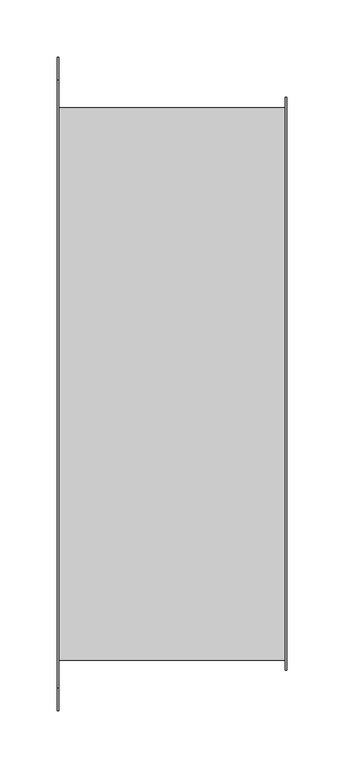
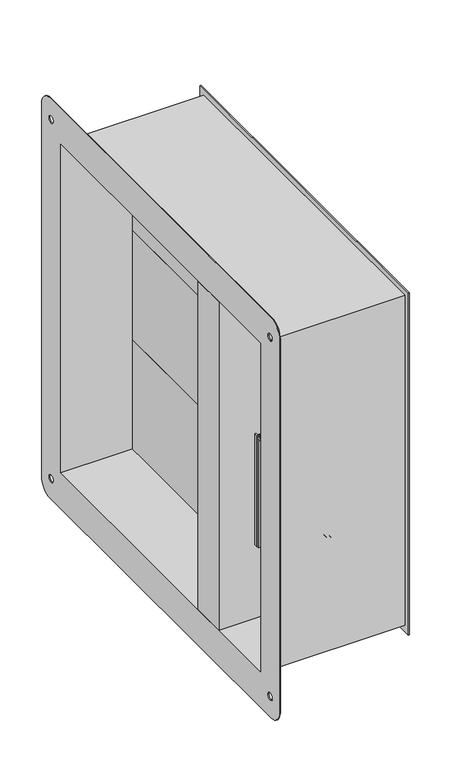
"""IFC4 building model written with IfcOpenShell, lengths in millimetres: damper geometry, СВ_КлапанПротивопожарныйЛифтовой_КДМ-2М-3-ЛС_НЗ_СтеновойПрямоугольный_СВОК : КДМ-2М_Привод ЭМ."""

from ifc_helpers import new_model, si_unit, frame, origin, place, context, project, spatial, polyline, circle_curve, outline, extrude, source, transform, mapped, element, save
from ifc_brep_helpers import plane_surface, cylinder_surface, revolved_surface, advanced_brep


def damper_259d30a5(model_context):
    return source(origin(), model_context, "Body", "SolidModel", [
        extrude(outline(polyline([(0.6, -90.0), (-0.6, -90.0), (-0.6, 240.0), (0.6, 240.0), (0.6, -90.0)])), frame((0.0, 0.0, 80.0), z_axis=(0.0, 0.0, 1.0), x_axis=(1.0, 0.0, 0.0)), (0.0, 0.0, 1.0), 160.0),
        extrude(outline(polyline([(0.6, -90.0), (-0.6, -90.0), (-0.6, 240.0), (0.6, 240.0), (0.6, -90.0)])), frame((0.0, 0.0, -80.0), z_axis=(0.0, 0.0, 1.0), x_axis=(1.0, 0.0, 0.0)), (0.0, 0.0, 1.0), 160.0),
        extrude(outline(polyline([(0.6, -90.0), (-0.6, -90.0), (-0.6, 240.0), (0.6, 240.0), (0.6, -90.0)])), frame((0.0, 0.0, -240.0), z_axis=(0.0, 0.0, 1.0), x_axis=(1.0, 0.0, 0.0)), (0.0, 0.0, 1.0), 160.0),
        extrude(outline(polyline([(48.8298911, -140.0), (50.0298911, -140.0), (50.0298911, -145.0), (-50.0, -145.0), (-50.0, -140.0), (-48.8, -140.0), (-48.8, -143.8), (48.8298911, -143.8), (48.8298911, -140.0)])), frame((0.0, 0.0, -132.5), z_axis=(0.0, 0.0, 1.0), x_axis=(1.0, 0.0, 0.0)), (0.0, 0.0, 1.0), 162.5),
        advanced_brep(
        [(0.0, -219.0, -115.8717586), (0.0, -219.0, -90.1282414), (0.0, -219.0, -103.0), (0.0, -211.122975, -115.8717586), (0.0, -211.122975, -90.1282414), (0.0, -211.122975, -112.0972194), (0.0, -211.122975, -93.9027806), (0.0, -197.0, -112.0972194), (0.0, -197.0, -93.9027806), (0.0, -197.0, -103.0)],
        [
            (0, 1, circle_curve(frame((0.0, -219.0, -103.0), z_axis=(0.0, -1.0, 0.0), x_axis=(0.0, 0.0, 1.0)), 12.8717586)),
            (1, 2),
            (2, 0),
            (1, 0, circle_curve(frame((0.0, -219.0, -103.0), z_axis=(0.0, -1.0, 0.0), x_axis=(0.0, 0.0, 1.0)), 12.8717586)),
            (3, 4, circle_curve(frame((0.0, -211.122975, -103.0), z_axis=(0.0, -1.0, 0.0), x_axis=(0.0, 0.0, 1.0)), 12.8717586)),
            (4, 1),
            (0, 3),
            (4, 3, circle_curve(frame((0.0, -211.122975, -103.0), z_axis=(0.0, -1.0, 0.0), x_axis=(0.0, 0.0, 1.0)), 12.8717586)),
            (5, 6, circle_curve(frame((0.0, -211.122975, -103.0), z_axis=(0.0, -1.0, 0.0), x_axis=(0.0, 0.0, 1.0)), 9.0972194)),
            (6, 4),
            (3, 5),
            (6, 5, circle_curve(frame((0.0, -211.122975, -103.0), z_axis=(0.0, -1.0, 0.0), x_axis=(0.0, 0.0, 1.0)), 9.0972194)),
            (7, 8, circle_curve(frame((0.0, -197.0, -103.0), z_axis=(0.0, -1.0, 0.0), x_axis=(0.0, 0.0, 1.0)), 9.0972194)),
            (8, 6),
            (5, 7),
            (8, 7, circle_curve(frame((0.0, -197.0, -103.0), z_axis=(0.0, -1.0, 0.0), x_axis=(0.0, 0.0, 1.0)), 9.0972194)),
            (9, 8),
            (7, 9),
        ],
        [
            plane_surface(frame((0.0, -219.0, -103.0), z_axis=(0.0, -1.0, 0.0), x_axis=(0.0, 0.0, 1.0))),
            cylinder_surface(frame((0.0, -197.0, -103.0), z_axis=(0.0, 1.0, 0.0), x_axis=(0.0, 0.0, 1.0)), 12.8717586),
            plane_surface(frame((0.0, -211.122975, -103.0), z_axis=(0.0, 1.0, 0.0), x_axis=(0.0, 0.0, 1.0))),
            cylinder_surface(frame((0.0, -197.0, -103.0), z_axis=(0.0, 1.0, 0.0), x_axis=(0.0, 0.0, 1.0)), 9.0972194),
            plane_surface(frame((0.0, -197.0, -103.0), z_axis=(0.0, 1.0, 0.0), x_axis=(0.0, 0.0, 1.0))),
        ],
        [
            (0, [[1, 2, 3]]),
            (0, [[4, -3, -2]]),
            (1, [[5, 6, -1, 7]]),
            (1, [[8, -7, -4, -6]]),
            (2, [[9, 10, -5, 11]]),
            (2, [[12, -11, -8, -10]]),
            (3, [[13, 14, -9, 15]]),
            (3, [[16, -15, -12, -14]]),
            (4, [[17, -13, 18]]),
            (4, [[-18, -16, -17]]),
        ],
    ),
        advanced_brep(
        [(30.37371, -190.4632523, -120.900028), (-29.62629, -190.4632523, -120.900028), (-29.62629, -151.0, -120.900028), (-43.1888336, -151.0, -120.900028), (-43.1888336, -148.0, -120.900028), (-26.62629, -148.0, -120.900028), (-26.62629, -187.4632523, -120.900028), (0.37371, -187.4632523, -120.900028), (27.37371, -187.4632523, -120.900028), (27.37371, -148.0, -120.900028), (43.9362537, -148.0, -120.900028), (43.9362537, -151.0, -120.900028), (30.37371, -151.0, -120.900028), (30.37371, -190.4632523, -85.2906263), (30.37371, -151.0, -85.2906263), (43.9362537, -151.0, -85.2906263), (43.9362537, -148.0, -85.2906263), (27.37371, -148.0, -85.2906263), (27.37371, -187.4632523, -85.2906263), (0.37371, -187.4632523, -85.2906263), (-26.62629, -187.4632523, -85.2906263), (-26.62629, -148.0, -85.2906263), (-43.1888336, -148.0, -85.2906263), (-43.1888336, -151.0, -85.2906263), (-29.62629, -151.0, -85.2906263), (-29.62629, -190.4632523, -85.2906263), (-12.4468236, -190.4632523, -85.2906263), (0.37371, -190.4632523, -85.2906263), (12.4468236, -190.4632523, -85.2906263), (0.37371, -187.4632523, -87.0153496), (0.0, -187.4632523, -87.0109817), (0.0, -187.4632523, -118.9890183), (0.37371, -187.4632523, -118.9846504), (12.4468236, -197.0, -103.0), (12.4468236, -197.0, -15.654922), (-8.3218794, -197.0, 18.1864324), (-46.7904973, -197.0, 0.5836838), (-46.7904973, -197.0, -7.3717785), (-30.2857987, -197.0, -7.3717785), (-7.6533426, -197.0, -30.2158745), (-7.6533426, -197.0, -53.0), (-12.4468236, -197.0, -53.0), (-12.4468236, -197.0, -103.0), (8.4852814, -197.0, 0.0), (5.9954463, -197.0, -2.4898351), (5.9954463, -197.0, -5.9954463), (2.4898351, -197.0, -5.9954463), (0.0, -197.0, -8.4852814), (-2.4898351, -197.0, -5.9954463), (-5.9954463, -197.0, -5.9954463), (-5.9954463, -197.0, -2.4898351), (-8.4852814, -197.0, 0.0), (-5.9954463, -197.0, 2.4898351), (-5.9954463, -197.0, 5.9954463), (-2.4898351, -197.0, 5.9954463), (0.0, -197.0, 8.4852814), (2.4898351, -197.0, 5.9954463), (5.9954463, -197.0, 5.9954463), (5.9954463, -197.0, 2.4898351), (-12.4468236, -190.4632523, -53.0), (-7.6533426, -190.4632523, -53.0), (-7.6533426, -190.4632523, -30.2158745), (-23.3544986, -190.4632523, -20.6431616), (12.4468236, -190.4632523, -20.6431616), (-12.4468236, -190.4632523, -103.0), (12.4468236, -190.4632523, -103.0), (12.4468236, -190.4632523, -15.654922), (-8.3218794, -190.4632523, 18.1864324), (-46.7904973, -190.4632523, 0.5836838), (-46.7904973, -190.4632523, -7.3717785), (-30.2857987, -190.4632523, -7.3717785), (0.0, -185.0, 15.9890183), (0.0, -185.0, -15.9890183), (5.9954463, -185.0, -2.4898351), (8.4852814, -185.0, 0.0), (5.9954463, -185.0, 2.4898351), (5.9954463, -185.0, 5.9954463), (2.4898351, -185.0, 5.9954463), (0.0, -185.0, 8.4852814), (-2.4898351, -185.0, 5.9954463), (-5.9954463, -185.0, 5.9954463), (-5.9954463, -185.0, 2.4898351), (-8.4852814, -185.0, 0.0), (-5.9954463, -185.0, -2.4898351), (-5.9954463, -185.0, -5.9954463), (-2.4898351, -185.0, -5.9954463), (0.0, -185.0, -8.4852814), (2.4898351, -185.0, -5.9954463), (5.9954463, -185.0, -5.9954463), (0.0, -185.0, -87.0109817), (0.0, -185.0, -118.9890183), (0.0, -187.4632523, -15.9890183), (0.0, -187.4632523, 15.9890183), (-50.0, -145.0, 25.5), (-50.0, -145.0, -132.5), (-50.0, -148.0, -132.5), (-50.0, -148.0, 25.5), (-50.0, -149.5, 27.0), (-50.0, -185.9337407, 27.0), (-50.0, -187.4632523, 25.4704884), (-50.0, -187.4632523, -20.6431616), (-50.0, -190.4632523, -20.6431616), (-50.0, -190.4632523, 25.4704884), (-50.0, -185.9337407, 30.0), (-50.0, -149.5, 30.0), (50.0, -145.0, 25.5), (50.0, -149.5, 30.0), (50.0, -185.9337407, 30.0), (50.0, -190.4632523, 25.4704884), (50.0, -190.4632523, -20.6431616), (50.0, -187.4632523, -20.6431616), (50.0, -187.4632523, 25.4704884), (50.0, -185.9337407, 27.0), (50.0, -149.5, 27.0), (50.0, -148.0, 25.5), (50.0, -148.0, -132.5), (50.0, -145.0, -132.5), (5.9954463, -145.0, -2.4898351), (8.4852814, -145.0, 0.0), (5.9954463, -145.0, 2.4898351), (5.9954463, -145.0, 5.9954463), (2.4898351, -145.0, 5.9954463), (0.0, -145.0, 8.4852814), (-2.4898351, -145.0, 5.9954463), (-5.9954463, -145.0, 5.9954463), (-5.9954463, -145.0, 2.4898351), (-8.4852814, -145.0, 0.0), (-5.9954463, -145.0, -2.4898351), (-5.9954463, -145.0, -5.9954463), (-2.4898351, -145.0, -5.9954463), (0.0, -145.0, -8.4852814), (2.4898351, -145.0, -5.9954463), (5.9954463, -145.0, -5.9954463), (8.4852814, -148.0, 0.0), (5.9954463, -148.0, -2.4898351), (5.9954463, -148.0, -5.9954463), (2.4898351, -148.0, -5.9954463), (0.0, -148.0, -8.4852814), (-2.4898351, -148.0, -5.9954463), (-5.9954463, -148.0, -5.9954463), (-5.9954463, -148.0, -2.4898351), (-8.4852814, -148.0, 0.0), (-5.9954463, -148.0, 2.4898351), (-5.9954463, -148.0, 5.9954463), (-2.4898351, -148.0, 5.9954463), (0.0, -148.0, 8.4852814), (2.4898351, -148.0, 5.9954463), (5.9954463, -148.0, 5.9954463), (5.9954463, -148.0, 2.4898351)],
        [
            (0, 1),
            (1, 2),
            (2, 3),
            (3, 4),
            (4, 5),
            (5, 6),
            (6, 7),
            (7, 8),
            (8, 9),
            (9, 10),
            (10, 11),
            (11, 12),
            (12, 0),
            (13, 14),
            (14, 15),
            (15, 16),
            (16, 17),
            (17, 18),
            (18, 19),
            (19, 20),
            (20, 21),
            (21, 22),
            (22, 23),
            (23, 24),
            (24, 25),
            (25, 26),
            (26, 27),
            (27, 28),
            (28, 13),
            (1, 25),
            (24, 2),
            (23, 3),
            (22, 4),
            (5, 21),
            (20, 6),
            (19, 29),
            (29, 30, circle_curve(frame((0.0, -187.4632523, -103.0), z_axis=(0.0, -1.0, 0.0), x_axis=(0.0, 0.0, -1.0)), 15.9890183)),
            (30, 31, circle_curve(frame((0.0, -187.4632523, -103.0), z_axis=(0.0, -1.0, 0.0), x_axis=(0.0, 0.0, -1.0)), 15.9890183)),
            (31, 32, circle_curve(frame((0.0, -187.4632523, -103.0), z_axis=(0.0, -1.0, 0.0), x_axis=(0.0, 0.0, -1.0)), 15.9890183)),
            (32, 7),
            (32, 29, circle_curve(frame((0.0, -187.4632523, -103.0), z_axis=(0.0, -1.0, 0.0), x_axis=(0.0, 0.0, -1.0)), 15.9890183)),
            (18, 8),
            (17, 9),
            (10, 16),
            (15, 11),
            (14, 12),
            (13, 0),
            (33, 34),
            (34, 35, circle_curve(frame((0.0, -197.0, 0.0), z_axis=(0.0, -1.0, 0.0), x_axis=(0.0, 0.0, -1.0)), 20.0)),
            (35, 36),
            (36, 37),
            (37, 38),
            (38, 39, circle_curve(frame((0.0, -197.0, 0.0), z_axis=(0.0, -1.0, 0.0), x_axis=(0.0, 0.0, -1.0)), 31.1700613)),
            (39, 40),
            (40, 41),
            (41, 42),
            (42, 33, circle_curve(frame((0.0, -197.0, -103.0), z_axis=(0.0, -1.0, 0.0), x_axis=(0.0, 0.0, -1.0)), 12.4468236)),
            (43, 44),
            (44, 45),
            (45, 46),
            (46, 47),
            (47, 48),
            (48, 49),
            (49, 50),
            (50, 51),
            (51, 52),
            (52, 53),
            (53, 54),
            (54, 55),
            (55, 56),
            (56, 57),
            (57, 58),
            (58, 43),
            (59, 60),
            (60, 61),
            (61, 62, circle_curve(frame((0.0, -190.4632523, 0.0), z_axis=(0.0, 1.0, 0.0), x_axis=(0.0, 0.0, -1.0)), 31.1700613)),
            (62, 63),
            (63, 28),
            (26, 59),
            (42, 64),
            (64, 65, circle_curve(frame((0.0, -190.4632523, -103.0), z_axis=(0.0, -1.0, 0.0), x_axis=(0.0, 0.0, -1.0)), 12.4468236)),
            (65, 33),
            (34, 66),
            (66, 67, circle_curve(frame((0.0, -190.4632523, 0.0), z_axis=(0.0, -1.0, 0.0), x_axis=(0.0, 0.0, -1.0)), 20.0)),
            (67, 35),
            (65, 28),
            (63, 66),
            (36, 68),
            (68, 69),
            (69, 37),
            (69, 70),
            (70, 38),
            (70, 62, circle_curve(frame((0.0, -190.4632523, 0.0), z_axis=(0.0, -1.0, 0.0), x_axis=(0.0, 0.0, -1.0)), 31.1700613)),
            (61, 39),
            (60, 40),
            (59, 41),
            (26, 64),
            (71, 72, circle_curve(frame((0.0, -185.0, 0.0), z_axis=(0.0, 1.0, 0.0), x_axis=(0.0, 0.0, -1.0)), 15.9890183)),
            (72, 71, circle_curve(frame((0.0, -185.0, 0.0), z_axis=(0.0, 1.0, 0.0), x_axis=(0.0, 0.0, -1.0)), 15.9890183)),
            (73, 74),
            (74, 75),
            (75, 76),
            (76, 77),
            (77, 78),
            (78, 79),
            (79, 80),
            (80, 81),
            (81, 82),
            (82, 83),
            (83, 84),
            (84, 85),
            (85, 86),
            (86, 87),
            (87, 88),
            (88, 73),
            (89, 90, circle_curve(frame((0.0, -185.0, -103.0), z_axis=(0.0, 1.0, 0.0), x_axis=(0.0, 0.0, -1.0)), 15.9890183)),
            (90, 89, circle_curve(frame((0.0, -185.0, -103.0), z_axis=(0.0, 1.0, 0.0), x_axis=(0.0, 0.0, -1.0)), 15.9890183)),
            (72, 91),
            (91, 92, circle_curve(frame((0.0, -187.4632523, 0.0), z_axis=(0.0, 1.0, 0.0), x_axis=(0.0, 0.0, -1.0)), 15.9890183)),
            (92, 71),
            (92, 91, circle_curve(frame((0.0, -187.4632523, 0.0), z_axis=(0.0, 1.0, 0.0), x_axis=(0.0, 0.0, -1.0)), 15.9890183)),
            (90, 31),
            (30, 89),
            (93, 94),
            (94, 95),
            (95, 96),
            (96, 97, circle_curve(frame((-50.0, -149.5, 25.5), z_axis=(1.0, 0.0, 0.0), x_axis=(0.0, 0.0, -1.0)), 1.5)),
            (97, 98),
            (98, 99, circle_curve(frame((-50.0, -185.9337407, 25.4704884), z_axis=(1.0, 0.0, 0.0), x_axis=(0.0, 0.0, -1.0)), 1.5295116)),
            (99, 100),
            (100, 101),
            (101, 102),
            (102, 103, circle_curve(frame((-50.0, -185.9337407, 25.4704884), z_axis=(-1.0, 0.0, 0.0), x_axis=(0.0, 0.0, -1.0)), 4.5295116)),
            (103, 104),
            (104, 93, circle_curve(frame((-50.0, -149.5, 25.5), z_axis=(-1.0, 0.0, 0.0), x_axis=(0.0, 0.0, -1.0)), 4.5)),
            (105, 106, circle_curve(frame((50.0, -149.5, 25.5), z_axis=(1.0, 0.0, 0.0), x_axis=(0.0, 0.0, -1.0)), 4.5)),
            (106, 107),
            (107, 108, circle_curve(frame((50.0, -185.9337407, 25.4704884), z_axis=(1.0, 0.0, 0.0), x_axis=(0.0, 0.0, -1.0)), 4.5295116)),
            (108, 109),
            (109, 110),
            (110, 111),
            (111, 112, circle_curve(frame((50.0, -185.9337407, 25.4704884), z_axis=(-1.0, 0.0, 0.0), x_axis=(0.0, 0.0, -1.0)), 1.5295116)),
            (112, 113),
            (113, 114, circle_curve(frame((50.0, -149.5, 25.5), z_axis=(-1.0, 0.0, 0.0), x_axis=(0.0, 0.0, -1.0)), 1.5)),
            (114, 115),
            (115, 116),
            (116, 105),
            (93, 105),
            (116, 94),
            (117, 118),
            (118, 119),
            (119, 120),
            (120, 121),
            (121, 122),
            (122, 123),
            (123, 124),
            (124, 125),
            (125, 126),
            (126, 127),
            (127, 128),
            (128, 129),
            (129, 130),
            (130, 131),
            (131, 132),
            (132, 117),
            (115, 95),
            (114, 96),
            (133, 134),
            (134, 135),
            (135, 136),
            (136, 137),
            (137, 138),
            (138, 139),
            (139, 140),
            (140, 141),
            (141, 142),
            (142, 143),
            (143, 144),
            (144, 145),
            (145, 146),
            (146, 147),
            (147, 148),
            (148, 133),
            (113, 97),
            (112, 98),
            (111, 99),
            (110, 100),
            (109, 63),
            (62, 101),
            (68, 67),
            (108, 102),
            (107, 103),
            (106, 104),
            (73, 44),
            (43, 74),
            (117, 134),
            (133, 118),
            (58, 75),
            (148, 119),
            (57, 76),
            (147, 120),
            (56, 77),
            (146, 121),
            (55, 78),
            (145, 122),
            (54, 79),
            (144, 123),
            (53, 80),
            (143, 124),
            (52, 81),
            (142, 125),
            (51, 82),
            (141, 126),
            (50, 83),
            (140, 127),
            (49, 84),
            (139, 128),
            (48, 85),
            (138, 129),
            (47, 86),
            (137, 130),
            (46, 87),
            (136, 131),
            (45, 88),
            (135, 132),
        ],
        [
            plane_surface(frame((30.37371, -190.4632523, -120.900028), z_axis=(0.0, 0.0, -1.0), x_axis=(-1.0, 0.0, 0.0))),
            plane_surface(frame((30.37371, -190.4632523, -85.2906263), z_axis=(0.0, 0.0, 1.0), x_axis=(1.0, 0.0, 0.0))),
            plane_surface(frame((-29.62629, -190.4632523, -120.900028), z_axis=(-1.0, 0.0, 0.0), x_axis=(0.0, 0.0, 1.0))),
            plane_surface(frame((-29.62629, -151.0, -120.900028), z_axis=(0.0, -1.0, 0.0), x_axis=(0.0, 0.0, 1.0))),
            plane_surface(frame((-43.1888336, -151.0, -120.900028), z_axis=(-1.0, 0.0, 0.0), x_axis=(0.0, 0.0, 1.0))),
            plane_surface(frame((-26.62629, -148.0, -120.900028), z_axis=(1.0, 0.0, 0.0), x_axis=(0.0, 0.0, 1.0))),
            plane_surface(frame((-26.62629, -187.4632523, -120.900028), z_axis=(0.0, 1.0, 0.0), x_axis=(0.0, 0.0, 1.0))),
            plane_surface(frame((0.37371, -187.4632523, -120.900028), z_axis=(0.0, 1.0, 0.0), x_axis=(0.0, 0.0, 1.0))),
            plane_surface(frame((27.37371, -187.4632523, -120.900028), z_axis=(-1.0, 0.0, 0.0), x_axis=(0.0, 0.0, 1.0))),
            plane_surface(frame((43.9362537, -148.0, -120.900028), z_axis=(1.0, 0.0, 0.0), x_axis=(0.0, 0.0, 1.0))),
            plane_surface(frame((43.9362537, -151.0, -120.900028), z_axis=(0.0, -1.0, 0.0), x_axis=(0.0, 0.0, 1.0))),
            plane_surface(frame((30.37371, -151.0, -120.900028), z_axis=(1.0, 0.0, 0.0), x_axis=(0.0, 0.0, 1.0))),
            plane_surface(frame((12.4468236, -197.0, -103.0), z_axis=(0.0, -1.0, 0.0), x_axis=(0.0, 0.0, 1.0))),
            plane_surface(frame((12.4468236, -190.4632523, -103.0), z_axis=(0.0, 1.0, 0.0), x_axis=(0.0, 0.0, -1.0))),
            cylinder_surface(frame((0.0, -190.4632523, -103.0), z_axis=(0.0, -1.0, 0.0), x_axis=(0.0, 0.0, -1.0)), 12.4468236),
            cylinder_surface(frame((0.0, -190.4632523, 0.0), z_axis=(0.0, -1.0, 0.0), x_axis=(0.0, 0.0, -1.0)), 20.0),
            plane_surface(frame((12.4468236, -197.0, -103.0), z_axis=(1.0, 0.0, 0.0), x_axis=(0.0, 1.0, 0.0))),
            plane_surface(frame((-46.7904973, -197.0, 0.5836838), z_axis=(-1.0, 0.0, 0.0), x_axis=(0.0, 1.0, 0.0))),
            plane_surface(frame((-46.7904973, -197.0, -7.3717785), z_axis=(0.0, 0.0, -1.0), x_axis=(0.0, 1.0, 0.0))),
            cylinder_surface(frame((0.0, -190.4632523, 0.0), z_axis=(0.0, -1.0, 0.0), x_axis=(0.0, 0.0, -1.0)), 31.1700613),
            plane_surface(frame((-7.6533426, -197.0, -30.2158745), z_axis=(-1.0, 0.0, 0.0), x_axis=(0.0, 1.0, 0.0))),
            plane_surface(frame((-7.6533426, -197.0, -53.0), z_axis=(0.0, 0.0, 1.0), x_axis=(0.0, 1.0, 0.0))),
            plane_surface(frame((-12.4468236, -197.0, -53.0), z_axis=(-1.0, 0.0, 0.0), x_axis=(0.0, 1.0, 0.0))),
            plane_surface(frame((0.0, -190.4632523, -15.9890183), z_axis=(0.0, -1.0, 0.0), x_axis=(1.0, 0.0, 0.0))),
            plane_surface(frame((0.0, -185.0, -15.9890183), z_axis=(0.0, 1.0, 0.0), x_axis=(-1.0, 0.0, 0.0))),
            cylinder_surface(frame((0.0, -185.0, 0.0), z_axis=(0.0, -1.0, 0.0), x_axis=(0.0, 0.0, -1.0)), 15.9890183),
            cylinder_surface(frame((0.0, -140.0, -103.0), z_axis=(0.0, -1.0, 0.0), x_axis=(0.0, 0.0, -1.0)), 15.9890183),
            plane_surface(frame((-50.0, -145.0, -132.5), z_axis=(-1.0, 0.0, 0.0), x_axis=(0.0, 0.0, -1.0))),
            plane_surface(frame((50.0, -145.0, -132.5), z_axis=(1.0, 0.0, 0.0), x_axis=(0.0, 0.0, 1.0))),
            plane_surface(frame((-50.0, -145.0, 25.5), z_axis=(0.0, 1.0, 0.0), x_axis=(1.0, 0.0, 0.0))),
            plane_surface(frame((-50.0, -145.0, -132.5), z_axis=(0.0, 0.0, -1.0), x_axis=(1.0, 0.0, 0.0))),
            plane_surface(frame((-50.0, -148.0, -132.5), z_axis=(0.0, -1.0, 0.0), x_axis=(1.0, 0.0, 0.0))),
            revolved_surface(polyline([(50.0, -149.5, 24.0), (-50.0, -149.5, 24.0)]), (50.0, -149.5, 25.5), (1.0, 0.0, 0.0)),
            plane_surface(frame((-50.0, -149.5, 27.0), z_axis=(0.0, 0.0, -1.0), x_axis=(1.0, 0.0, 0.0))),
            revolved_surface(polyline([(50.0, -185.9337407, 23.9409768), (-50.0, -185.9337407, 23.9409768)]), (50.0, -185.9337407, 25.4704884), (1.0, 0.0, 0.0)),
            plane_surface(frame((-50.0, -187.4632523, 25.4704884), z_axis=(0.0, 1.0, 0.0), x_axis=(1.0, 0.0, 0.0))),
            plane_surface(frame((-50.0, -187.4632523, -20.6431616), z_axis=(0.0, 0.0, -1.0), x_axis=(1.0, 0.0, 0.0))),
            plane_surface(frame((-50.0, -190.4632523, -20.6431616), z_axis=(0.0, -1.0, 0.0), x_axis=(1.0, 0.0, 0.0))),
            cylinder_surface(frame((50.0, -185.9337407, 25.4704884), z_axis=(-1.0, 0.0, 0.0), x_axis=(0.0, 0.0, -1.0)), 4.5295116),
            plane_surface(frame((-50.0, -185.9337407, 30.0), z_axis=(0.0, 0.0, 1.0), x_axis=(1.0, 0.0, 0.0))),
            cylinder_surface(frame((50.0, -149.5, 25.5), z_axis=(-1.0, 0.0, 0.0), x_axis=(0.0, 0.0, -1.0)), 4.5),
            plane_surface(frame((-8.3218794, -197.0, 18.1864324), z_axis=(-0.4160939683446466, 0.0, 0.9093216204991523), x_axis=(0.0, 1.0, 0.0))),
            plane_surface(frame((5.9954463, -203.0, -2.4898351), z_axis=(-0.7071067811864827, 0.0, 0.7071067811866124), x_axis=(0.0, 1.0, 0.0))),
            plane_surface(frame((8.4852814, -203.0, 0.0), z_axis=(-0.7071067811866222, 0.0, -0.7071067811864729), x_axis=(0.0, 1.0, 0.0))),
            plane_surface(frame((5.9954463, -203.0, 2.4898351), z_axis=(-1.0, 0.0, 0.0), x_axis=(0.0, 1.0, 0.0))),
            plane_surface(frame((5.9954463, -203.0, 5.9954463), z_axis=(0.0, 0.0, -1.0), x_axis=(0.0, 1.0, 0.0))),
            plane_surface(frame((2.4898351, -203.0, 5.9954463), z_axis=(-0.7071067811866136, 0.0, -0.7071067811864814), x_axis=(0.0, 1.0, 0.0))),
            plane_surface(frame((0.0, -203.0, 8.4852814), z_axis=(0.7071067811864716, 0.0, -0.7071067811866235), x_axis=(0.0, 1.0, 0.0))),
            plane_surface(frame((-2.4898351, -203.0, 5.9954463), z_axis=(0.0, 0.0, -1.0), x_axis=(0.0, 1.0, 0.0))),
            plane_surface(frame((-5.9954463, -203.0, 5.9954463), z_axis=(1.0, 0.0, 0.0), x_axis=(0.0, 1.0, 0.0))),
            plane_surface(frame((-5.9954463, -203.0, 2.4898351), z_axis=(0.7071067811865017, 0.0, -0.7071067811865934), x_axis=(0.0, 1.0, 0.0))),
            plane_surface(frame((-8.4852814, -203.0, 0.0), z_axis=(0.7071067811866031, 0.0, 0.7071067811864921), x_axis=(0.0, 1.0, 0.0))),
            plane_surface(frame((-5.9954463, -203.0, -2.4898351), z_axis=(1.0, 0.0, 0.0), x_axis=(0.0, 1.0, 0.0))),
            plane_surface(frame((-5.9954463, -203.0, -5.9954463), z_axis=(0.0, 0.0, 1.0), x_axis=(0.0, 1.0, 0.0))),
            plane_surface(frame((-2.4898351, -203.0, -5.9954463), z_axis=(0.7071067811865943, 0.0, 0.7071067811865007), x_axis=(0.0, 1.0, 0.0))),
            plane_surface(frame((0.0, -203.0, -8.4852814), z_axis=(-0.707106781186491, 0.0, 0.7071067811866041), x_axis=(0.0, 1.0, 0.0))),
            plane_surface(frame((2.4898351, -203.0, -5.9954463), z_axis=(0.0, 0.0, 1.0), x_axis=(0.0, 1.0, 0.0))),
            plane_surface(frame((5.9954463, -203.0, -5.9954463), z_axis=(-1.0, 0.0, 0.0), x_axis=(0.0, 1.0, 0.0))),
        ],
        [
            (0, [[1, 2, 3, 4, 5, 6, 7, 8, 9, 10, 11, 12, 13]]),
            (1, [[14, 15, 16, 17, 18, 19, 20, 21, 22, 23, 24, 25, 26, 27, 28, 29]]),
            (2, [[-2, 30, -25, 31]]),
            (3, [[-3, -31, -24, 32]]),
            (4, [[-4, -32, -23, 33]]),
            (5, [[-6, 34, -21, 35]]),
            (6, [[-7, -35, -20, 36, 37, 38, 39, 40]]),
            (7, [[-8, -40, 41, -36, -19, 42]]),
            (8, [[-9, -42, -18, 43]]),
            (9, [[-11, 44, -16, 45]]),
            (10, [[-12, -45, -15, 46]]),
            (11, [[-13, -46, -14, 47]]),
            (12, [[48, 49, 50, 51, 52, 53, 54, 55, 56, 57], [58, 59, 60, 61, 62, 63, 64, 65, 66, 67, 68, 69, 70, 71, 72, 73]]),
            (13, [[74, 75, 76, 77, 78, -28, -27, 79]]),
            (14, [[-57, 80, 81, 82]]),
            (15, [[-49, 83, 84, 85]]),
            (16, [[-48, -82, 86, -78, 87, -83]]),
            (17, [[-51, 88, 89, 90]]),
            (18, [[-52, -90, 91, 92]]),
            (19, [[-53, -92, 93, -76, 94]]),
            (20, [[-54, -94, -75, 95]]),
            (21, [[-55, -95, -74, 96]]),
            (22, [[-56, -96, -79, 97, -80]]),
            (23, [[-26, -30, -1, -47, -29, -86, -81, -97]]),
            (24, [[98, 99], [100, 101, 102, 103, 104, 105, 106, 107, 108, 109, 110, 111, 112, 113, 114, 115]]),
            (24, [[116, 117]]),
            (25, [[-99, 118, 119, 120]]),
            (25, [[-98, -120, 121, -118]]),
            (26, [[-117, 122, -38, 123]]),
            (26, [[-116, -123, -37, -41, -39, -122]]),
            (27, [[124, 125, 126, 127, 128, 129, 130, 131, 132, 133, 134, 135]]),
            (28, [[136, 137, 138, 139, 140, 141, 142, 143, 144, 145, 146, 147]]),
            (29, [[-124, 148, -147, 149], [150, 151, 152, 153, 154, 155, 156, 157, 158, 159, 160, 161, 162, 163, 164, 165]]),
            (30, [[-125, -149, -146, 166]]),
            (31, [[-126, -166, -145, 167], [-5, -33, -22, -34], [-10, -43, -17, -44], [168, 169, 170, 171, 172, 173, 174, 175, 176, 177, 178, 179, 180, 181, 182, 183]]),
            (32, [[-127, -167, -144, 184]]),
            (33, [[-128, -184, -143, 185]]),
            (34, [[-129, -185, -142, 186]]),
            (35, [[-130, -186, -141, 187], [-119, -121]]),
            (36, [[-131, -187, -140, 188, -77, 189]]),
            (37, [[-132, -189, -93, -91, -89, 190, -84, -87, -188, -139, 191]]),
            (38, [[-133, -191, -138, 192]]),
            (39, [[-134, -192, -137, 193]]),
            (40, [[-135, -193, -136, -148]]),
            (41, [[-50, -85, -190, -88]]),
            (42, [[194, -58, 195, -100]]),
            (42, [[196, -168, 197, -150]]),
            (43, [[-195, -73, 198, -101]]),
            (43, [[-197, -183, 199, -151]]),
            (44, [[-198, -72, 200, -102]]),
            (44, [[-199, -182, 201, -152]]),
            (45, [[-200, -71, 202, -103]]),
            (45, [[-201, -181, 203, -153]]),
            (46, [[-202, -70, 204, -104]]),
            (46, [[-203, -180, 205, -154]]),
            (47, [[-204, -69, 206, -105]]),
            (47, [[-205, -179, 207, -155]]),
            (48, [[-206, -68, 208, -106]]),
            (48, [[-207, -178, 209, -156]]),
            (49, [[-208, -67, 210, -107]]),
            (49, [[-209, -177, 211, -157]]),
            (50, [[-210, -66, 212, -108]]),
            (50, [[-211, -176, 213, -158]]),
            (51, [[-212, -65, 214, -109]]),
            (51, [[-213, -175, 215, -159]]),
            (52, [[-214, -64, 216, -110]]),
            (52, [[-215, -174, 217, -160]]),
            (53, [[-216, -63, 218, -111]]),
            (53, [[-217, -173, 219, -161]]),
            (54, [[-218, -62, 220, -112]]),
            (54, [[-219, -172, 221, -162]]),
            (55, [[-220, -61, 222, -113]]),
            (55, [[-221, -171, 223, -163]]),
            (56, [[-222, -60, 224, -114]]),
            (56, [[-223, -170, 225, -164]]),
            (57, [[-194, -115, -224, -59]]),
            (57, [[-196, -165, -225, -169]]),
        ],
    ),
        extrude(outline(polyline([(-5.1832695, -2.9925621), (-5.1832695, 2.9925621), (0.0, 5.9851241), (5.1832695, 2.9925621), (5.1832695, -2.9925621), (0.0, -5.9851241), (-5.1832695, -2.9925621)])), frame((0.0, -203.0, 0.0), z_axis=(0.0, 1.0, 0.0), x_axis=(0.0, 0.0, 1.0)), (0.0, 0.0, 1.0), 63.0),
        extrude(outline(polyline([(100.0, -90.0), (100.0, -140.0), (-100.0, -140.0), (-100.0, -90.0), (100.0, -90.0)])), frame((0.0, 0.0, -240.0), z_axis=(0.0, 0.0, 1.0), x_axis=(1.0, 0.0, 0.0)), (0.0, 0.0, 1.0), 480.0),
        advanced_brep(
        [(-100.0, -265.0, 292.5), (-100.0, 265.0, 292.5), (-100.0, 285.0, 272.5), (-100.0, 285.0, -272.5), (-100.0, 265.0, -292.5), (-100.0, -265.0, -292.5), (-100.0, -285.0, -272.5), (-100.0, -285.0, 272.5), (-100.0, -240.0, 240.0), (-100.0, -240.0, -240.0), (-100.0, 240.0, -240.0), (-100.0, 240.0, 240.0), (-100.0, 257.5, 262.5), (-100.0, 267.5, 262.5), (-100.0, -267.5, 262.5), (-100.0, -257.5, 262.5), (-100.0, -267.5, -262.5), (-100.0, -257.5, -262.5), (-100.0, 257.5, -262.5), (-100.0, 267.5, -262.5), (-98.8, -265.0, 292.5), (-98.8, -285.0, 272.5), (-98.8, -285.0, -272.5), (-98.8, -265.0, -292.5), (-98.8, 265.0, -292.5), (-98.8, 285.0, -272.5), (-98.8, 285.0, 272.5), (-98.8, 265.0, 292.5), (-98.8, -241.2, 241.2), (-98.8, 241.2, 241.2), (-98.8, 241.2, -241.2), (-98.8, -241.2, -241.2), (-98.8, 267.5, 262.5), (-98.8, 257.5, 262.5), (-98.8, -257.5, 262.5), (-98.8, -267.5, 262.5), (-98.8, -257.5, -262.5), (-98.8, -267.5, -262.5), (-98.8, 267.5, -262.5), (-98.8, 257.5, -262.5), (100.0, -250.0, 250.0), (100.0, -250.0, -250.0), (100.0, 250.0, -250.0), (100.0, 250.0, 250.0), (100.0, -240.0, 240.0), (100.0, 240.0, 240.0), (100.0, 240.0, -240.0), (100.0, -240.0, -240.0), (98.8, -241.2, 241.2), (98.8, 241.2, 241.2), (98.8, -241.2, -241.2), (98.8, 241.2, -241.2), (98.8, 240.0, 240.0), (98.8, -240.0, 240.0), (98.8, -140.0, 240.0), (97.6, -140.0, 240.0), (97.6, -240.0, 240.0), (98.8, 240.0, -240.0), (97.6, -240.0, -240.0), (97.6, -140.0, -240.0), (98.8, -140.0, -240.0), (98.8, -240.0, -240.0), (98.8, -250.0, 250.0), (98.8, 250.0, 250.0), (98.8, 250.0, -250.0), (98.8, -250.0, -250.0)],
        [
            (0, 1),
            (1, 2, circle_curve(frame((-100.0, 265.0, 272.5), z_axis=(-1.0, 0.0, 0.0), x_axis=(0.0, 1.0, 0.0)), 20.0)),
            (2, 3),
            (3, 4, circle_curve(frame((-100.0, 265.0, -272.5), z_axis=(-1.0, 0.0, 0.0), x_axis=(0.0, 1.0, 0.0)), 20.0)),
            (4, 5),
            (5, 6, circle_curve(frame((-100.0, -265.0, -272.5), z_axis=(-1.0, 0.0, 0.0), x_axis=(0.0, 1.0, 0.0)), 20.0)),
            (6, 7),
            (7, 0, circle_curve(frame((-100.0, -265.0, 272.5), z_axis=(-1.0, 0.0, 0.0), x_axis=(0.0, 1.0, 0.0)), 20.0)),
            (8, 9),
            (9, 10),
            (10, 11),
            (11, 8),
            (12, 13, circle_curve(frame((-100.0, 262.5, 262.5), z_axis=(1.0, 0.0, 0.0), x_axis=(0.0, 1.0, 0.0)), 5.0)),
            (13, 12, circle_curve(frame((-100.0, 262.5, 262.5), z_axis=(1.0, 0.0, 0.0), x_axis=(0.0, 1.0, 0.0)), 5.0)),
            (14, 15, circle_curve(frame((-100.0, -262.5, 262.5), z_axis=(1.0, 0.0, 0.0), x_axis=(0.0, 1.0, 0.0)), 5.0)),
            (15, 14, circle_curve(frame((-100.0, -262.5, 262.5), z_axis=(1.0, 0.0, 0.0), x_axis=(0.0, 1.0, 0.0)), 5.0)),
            (16, 17, circle_curve(frame((-100.0, -262.5, -262.5), z_axis=(1.0, 0.0, 0.0), x_axis=(0.0, 1.0, 0.0)), 5.0)),
            (17, 16, circle_curve(frame((-100.0, -262.5, -262.5), z_axis=(1.0, 0.0, 0.0), x_axis=(0.0, 1.0, 0.0)), 5.0)),
            (18, 19, circle_curve(frame((-100.0, 262.5, -262.5), z_axis=(1.0, 0.0, 0.0), x_axis=(0.0, 1.0, 0.0)), 5.0)),
            (19, 18, circle_curve(frame((-100.0, 262.5, -262.5), z_axis=(1.0, 0.0, 0.0), x_axis=(0.0, 1.0, 0.0)), 5.0)),
            (20, 21, circle_curve(frame((-98.8, -265.0, 272.5), z_axis=(1.0, 0.0, 0.0), x_axis=(0.0, 1.0, 0.0)), 20.0)),
            (21, 22),
            (22, 23, circle_curve(frame((-98.8, -265.0, -272.5), z_axis=(1.0, 0.0, 0.0), x_axis=(0.0, 1.0, 0.0)), 20.0)),
            (23, 24),
            (24, 25, circle_curve(frame((-98.8, 265.0, -272.5), z_axis=(1.0, 0.0, 0.0), x_axis=(0.0, 1.0, 0.0)), 20.0)),
            (25, 26),
            (26, 27, circle_curve(frame((-98.8, 265.0, 272.5), z_axis=(1.0, 0.0, 0.0), x_axis=(0.0, 1.0, 0.0)), 20.0)),
            (27, 20),
            (28, 29),
            (29, 30),
            (30, 31),
            (31, 28),
            (32, 33, circle_curve(frame((-98.8, 262.5, 262.5), z_axis=(-1.0, 0.0, 0.0), x_axis=(0.0, 1.0, 0.0)), 5.0)),
            (33, 32, circle_curve(frame((-98.8, 262.5, 262.5), z_axis=(-1.0, 0.0, 0.0), x_axis=(0.0, 1.0, 0.0)), 5.0)),
            (34, 35, circle_curve(frame((-98.8, -262.5, 262.5), z_axis=(-1.0, 0.0, 0.0), x_axis=(0.0, 1.0, 0.0)), 5.0)),
            (35, 34, circle_curve(frame((-98.8, -262.5, 262.5), z_axis=(-1.0, 0.0, 0.0), x_axis=(0.0, 1.0, 0.0)), 5.0)),
            (36, 37, circle_curve(frame((-98.8, -262.5, -262.5), z_axis=(-1.0, 0.0, 0.0), x_axis=(0.0, 1.0, 0.0)), 5.0)),
            (37, 36, circle_curve(frame((-98.8, -262.5, -262.5), z_axis=(-1.0, 0.0, 0.0), x_axis=(0.0, 1.0, 0.0)), 5.0)),
            (38, 39, circle_curve(frame((-98.8, 262.5, -262.5), z_axis=(-1.0, 0.0, 0.0), x_axis=(0.0, 1.0, 0.0)), 5.0)),
            (39, 38, circle_curve(frame((-98.8, 262.5, -262.5), z_axis=(-1.0, 0.0, 0.0), x_axis=(0.0, 1.0, 0.0)), 5.0)),
            (40, 41),
            (41, 42),
            (42, 43),
            (43, 40),
            (44, 45),
            (45, 46),
            (46, 47),
            (47, 44),
            (28, 48),
            (48, 49),
            (49, 29),
            (31, 50),
            (50, 48),
            (30, 51),
            (51, 50),
            (49, 51),
            (11, 52),
            (52, 45),
            (44, 53),
            (53, 54),
            (54, 55),
            (55, 56),
            (56, 8),
            (10, 57),
            (57, 46),
            (9, 58),
            (58, 59),
            (59, 60),
            (60, 61),
            (61, 47),
            (56, 58),
            (61, 53),
            (6, 22),
            (21, 7),
            (4, 24),
            (23, 5),
            (2, 26),
            (25, 3),
            (0, 20),
            (27, 1),
            (32, 13),
            (12, 33),
            (34, 15),
            (14, 35),
            (36, 17),
            (16, 37),
            (38, 19),
            (18, 39),
            (62, 63),
            (63, 64),
            (64, 65),
            (65, 62),
            (65, 41),
            (40, 62),
            (64, 42),
            (63, 43),
            (54, 60),
            (59, 55),
        ],
        [
            plane_surface(frame((-100.0, 240.0, 240.0), z_axis=(-1.0, 0.0, 0.0), x_axis=(0.0, -1.0, 0.0))),
            plane_surface(frame((-98.8, 240.0, 240.0), z_axis=(1.0, 0.0, 0.0), x_axis=(0.0, 1.0, 0.0))),
            plane_surface(frame((100.0, 240.0, 240.0), z_axis=(1.0, 0.0, 0.0), x_axis=(0.0, 1.0, 0.0))),
            plane_surface(frame((100.0, 241.2, 241.2), z_axis=(0.0, 0.0, 1.0), x_axis=(-1.0, 0.0, 0.0))),
            plane_surface(frame((100.0, -241.2, 241.2), z_axis=(0.0, -1.0, 0.0), x_axis=(-1.0, 0.0, 0.0))),
            plane_surface(frame((100.0, -241.2, -241.2), z_axis=(0.0, 0.0, -1.0), x_axis=(-1.0, 0.0, 0.0))),
            plane_surface(frame((100.0, 241.2, -241.2), z_axis=(0.0, 1.0, 0.0), x_axis=(-1.0, 0.0, 0.0))),
            plane_surface(frame((-98.8, -240.0, 240.0), z_axis=(0.0, 0.0, -1.0), x_axis=(-1.0, 0.0, 0.0))),
            plane_surface(frame((-98.8, 240.0, 240.0), z_axis=(0.0, -1.0, 0.0), x_axis=(-1.0, 0.0, 0.0))),
            plane_surface(frame((-98.8, 240.0, -240.0), z_axis=(0.0, 0.0, 1.0), x_axis=(-1.0, 0.0, 0.0))),
            plane_surface(frame((-98.8, -240.0, -240.0), z_axis=(0.0, 1.0, 0.0), x_axis=(-1.0, 0.0, 0.0))),
            plane_surface(frame((-98.8, -285.0, 272.5), z_axis=(0.0, -1.0, 0.0), x_axis=(-1.0, 0.0, 0.0))),
            plane_surface(frame((-98.8, -265.0, -292.5), z_axis=(0.0, 0.0, -1.0), x_axis=(-1.0, 0.0, 0.0))),
            plane_surface(frame((-98.8, 285.0, -272.5), z_axis=(0.0, 1.0, 0.0), x_axis=(-1.0, 0.0, 0.0))),
            plane_surface(frame((-98.8, 265.0, 292.5), z_axis=(0.0, 0.0, 1.0), x_axis=(-1.0, 0.0, 0.0))),
            revolved_surface(polyline([(-98.8, 267.5, 262.5), (-100.0, 267.5, 262.5)]), (-100.0, 262.5, 262.5), (1.0, 0.0, 0.0)),
            revolved_surface(polyline([(-98.8, -257.5, 262.5), (-100.0, -257.5, 262.5)]), (-10.0, -262.5, 262.5), (1.0, 0.0, 0.0)),
            revolved_surface(polyline([(-98.8, -257.5, -262.5), (-100.0, -257.5, -262.5)]), (-10.0, -262.5, -262.5), (1.0, 0.0, 0.0)),
            revolved_surface(polyline([(-98.8, 267.5, -262.5), (-100.0, 267.5, -262.5)]), (-10.0, 262.5, -262.5), (1.0, 0.0, 0.0)),
            cylinder_surface(frame((0.0, -265.0, 272.5), z_axis=(1.0, 0.0, 0.0), x_axis=(0.0, 1.0, 0.0)), 20.0),
            cylinder_surface(frame((0.0, -265.0, -272.5), z_axis=(1.0, 0.0, 0.0), x_axis=(0.0, 1.0, 0.0)), 20.0),
            cylinder_surface(frame((0.0, 265.0, -272.5), z_axis=(1.0, 0.0, 0.0), x_axis=(0.0, 1.0, 0.0)), 20.0),
            cylinder_surface(frame((0.0, 265.0, 272.5), z_axis=(1.0, 0.0, 0.0), x_axis=(0.0, 1.0, 0.0)), 20.0),
            plane_surface(frame((98.8, 240.0, 240.0), z_axis=(-1.0, 0.0, 0.0), x_axis=(0.0, -1.0, 0.0))),
            plane_surface(frame((100.0, -250.0, 250.0), z_axis=(0.0, -1.0, 0.0), x_axis=(-1.0, 0.0, 0.0))),
            plane_surface(frame((100.0, -250.0, -250.0), z_axis=(0.0, 0.0, -1.0), x_axis=(-1.0, 0.0, 0.0))),
            plane_surface(frame((100.0, 250.0, -250.0), z_axis=(0.0, 1.0, 0.0), x_axis=(-1.0, 0.0, 0.0))),
            plane_surface(frame((100.0, 250.0, 250.0), z_axis=(0.0, 0.0, 1.0), x_axis=(-1.0, 0.0, 0.0))),
            plane_surface(frame((98.8, -140.0, 240.0), z_axis=(0.0, 1.0, 0.0), x_axis=(0.0, 0.0, -1.0))),
            plane_surface(frame((97.6, -140.0, 240.0), z_axis=(-1.0, 0.0, 0.0), x_axis=(0.0, 0.0, -1.0))),
            plane_surface(frame((98.8, -240.0, 240.0), z_axis=(1.0, 0.0, 0.0), x_axis=(0.0, 0.0, -1.0))),
        ],
        [
            (0, [[1, 2, 3, 4, 5, 6, 7, 8], [9, 10, 11, 12], [13, 14], [15, 16], [17, 18], [19, 20]]),
            (1, [[21, 22, 23, 24, 25, 26, 27, 28], [29, 30, 31, 32], [33, 34], [35, 36], [37, 38], [39, 40]]),
            (2, [[41, 42, 43, 44], [45, 46, 47, 48]]),
            (3, [[-29, 49, 50, 51]]),
            (4, [[-32, 52, 53, -49]]),
            (5, [[-31, 54, 55, -52]]),
            (6, [[-30, -51, 56, -54]]),
            (7, [[-12, 57, 58, -45, 59, 60, 61, 62, 63]]),
            (8, [[-11, 64, 65, -46, -58, -57]]),
            (9, [[-10, 66, 67, 68, 69, 70, -47, -65, -64]]),
            (10, [[-9, -63, 71, -66]]),
            (10, [[-48, -70, 72, -59]]),
            (11, [[-7, 73, -22, 74]]),
            (12, [[-5, 75, -24, 76]]),
            (13, [[-3, 77, -26, 78]]),
            (14, [[-1, 79, -28, 80]]),
            (15, [[81, -13, 82, -33]]),
            (15, [[-81, -34, -82, -14]]),
            (16, [[83, -15, 84, -35]]),
            (16, [[-83, -36, -84, -16]]),
            (17, [[85, -17, 86, -37]]),
            (17, [[-85, -38, -86, -18]]),
            (18, [[87, -19, 88, -39]]),
            (18, [[-87, -40, -88, -20]]),
            (19, [[-8, -74, -21, -79]]),
            (20, [[-6, -76, -23, -73]]),
            (21, [[-4, -78, -25, -75]]),
            (22, [[-2, -80, -27, -77]]),
            (23, [[89, 90, 91, 92], [-50, -53, -55, -56]]),
            (24, [[-92, 93, -41, 94]]),
            (25, [[-91, 95, -42, -93]]),
            (26, [[-90, 96, -43, -95]]),
            (27, [[-89, -94, -44, -96]]),
            (28, [[97, -68, 98, -61]]),
            (29, [[-98, -67, -71, -62]]),
            (30, [[-97, -60, -72, -69]]),
        ],
    ),
    ])


if __name__ == "__main__":
    model = new_model("IFC4")
    model_context = context("Model", 3, world=origin())
    ifc_project = project(units=[si_unit("LENGTHUNIT", "METRE", prefix="MILLI")], contexts=[model_context])
    site = spatial("IfcSite", under=ifc_project)
    building = spatial("IfcBuilding", under=site)
    placement = place(None, origin())
    damper_shape = damper_259d30a5(model_context)
    element("IfcDamper", 1, ObjectType="СВ_КлапанПротивопожарныйЛифтовой_КДМ-2М-3-ЛС_НЗ_СтеновойПрямоугольный_СВОК : КДМ-2М_Привод ЭМ", at=placement, inside=building, context=model_context, shape_type="MappedRepresentation", body=[
        mapped(damper_shape, transform((0.0, 0.0, 0.0), x_axis=(1.0, 0.0, 0.0), y_axis=(0.0, 1.0, 0.0), z_axis=(0.0, 0.0, 1.0))),
    ])
    save(model, "model.ifc")
